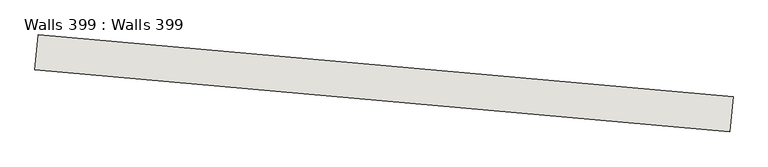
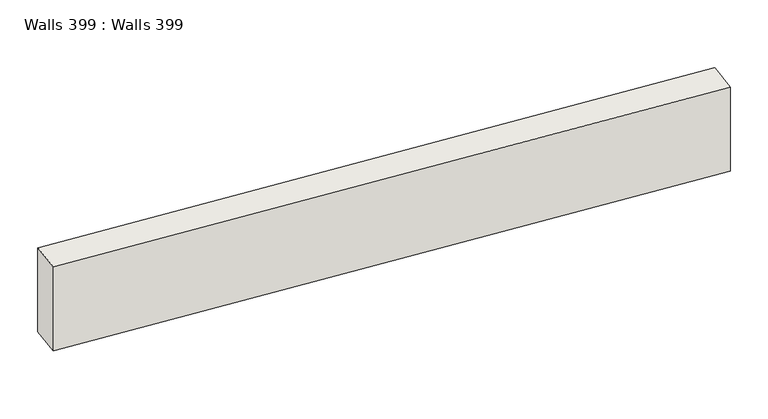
"""IFC4 building model written with IfcOpenShell, lengths in millimetres: wall geometry, Walls 399 : Walls 399."""

from ifc_helpers import new_model, si_unit, frame, origin, place, context, project, spatial, polyline, outline, extrude, source, transform, mapped, element, save


def walls_399_walls_399_9193c4f4(model_context):
    return source(origin(), model_context, "Body", "SweptSolid", [
        extrude(outline(polyline([(-571043.9081343, -427805.3178163), (-571079.4030643, -428203.7398412), (-579047.8435626, -427493.84124), (-579012.3486326, -427095.4192151), (-571043.9081343, -427805.3178163)])), frame((0.0, 0.0, 636860.0), z_axis=(0.0, 0.0, 1.0), x_axis=(1.0, 0.0, 0.0)), (0.0, 0.0, 1.0), 1100.0),
    ])


if __name__ == "__main__":
    model = new_model("IFC4")
    model_context = context("Model", 3, world=origin())
    ifc_project = project(units=[si_unit("LENGTHUNIT", "METRE", prefix="MILLI")], contexts=[model_context])
    site = spatial("IfcSite", under=ifc_project)
    building = spatial("IfcBuilding", under=site)
    placement = place(None, origin())
    walls_399_walls_399_shape = walls_399_walls_399_9193c4f4(model_context)
    element("IfcWall", 1, ObjectType="Walls 399 : Walls 399", at=placement, inside=building, context=model_context, shape_type="MappedRepresentation", body=[
        mapped(walls_399_walls_399_shape, transform((0.0, 0.0, 0.0), x_axis=(1.0, 0.0, 0.0), y_axis=(0.0, 1.0, 0.0), z_axis=(0.0, 0.0, 1.0))),
    ])
    save(model, "model.ifc")
